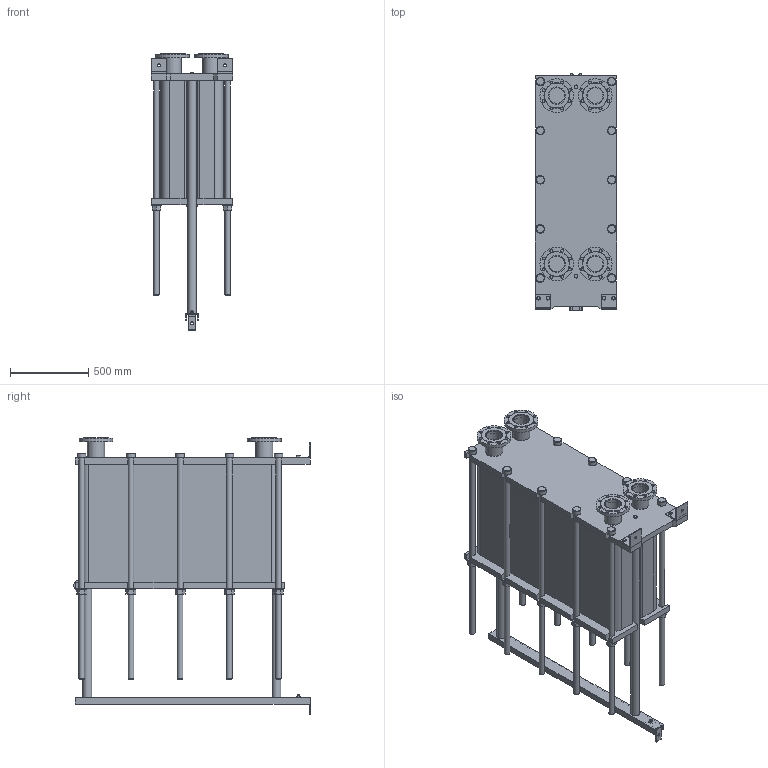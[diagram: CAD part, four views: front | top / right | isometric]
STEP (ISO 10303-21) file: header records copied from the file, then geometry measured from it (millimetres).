
FILE_DESCRIPTION(/* description */ (''),/* implementation_level */ '2;1');
FILE_NAME(/* name */ 'C:\Users\zhuro\Desktop\ENCO\TO\ЭН-04\ЭН-0,5-04-219-1.stp',/* time_stamp */ '2022-06-06T11:05:02+03:00',/* author */ ('zhuro'),/* organization */ (''),/* preprocessor_version */ 'ST-DEVELOPER v18.1',/* originating_system */ 'Autodesk Inventor 2022',/* authorisation */ '');
FILE_SCHEMA (('AUTOMOTIVE_DESIGN { 1 0 10303 214 3 1 1 }'));
Length unit declared in the file: millimetre
Products named in the file (1): ЭН-0,5-04-219-1
Bounding box: 520 x 1510 x 1769.5 mm (x, y, z)
Volume: 455202505.7 mm3; surface area: 10972083.2 mm2
Topology: 45 solids, 45 shells, 668 faces, 1611 edges, 1048 vertices
Faces by surface type: plane 457, cylinder 166, cone 39, torus 6
Full cylindrical faces by diameter (mm): 8 x4, 10 x2, 16 x8, 18 x35, 36 x25, 40 x2, 42 x1, 45 x4, 54 x10, 57 x2, 60 x10, 68 x2, 100 x4, 110 x8, 215 x4
Entity records: 23607 total; most frequent: CARTESIAN_POINT 7348, DIRECTION 3371, ORIENTED_EDGE 3142, EDGE_CURVE 1571, AXIS2_PLACEMENT_3D 1199, VERTEX_POINT 1044, LINE 973, VECTOR 973
